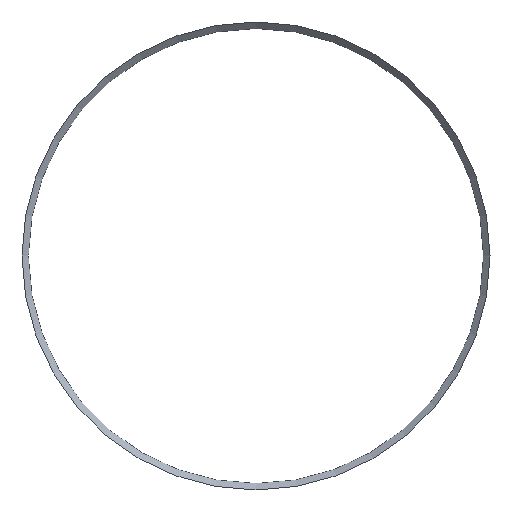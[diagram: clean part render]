
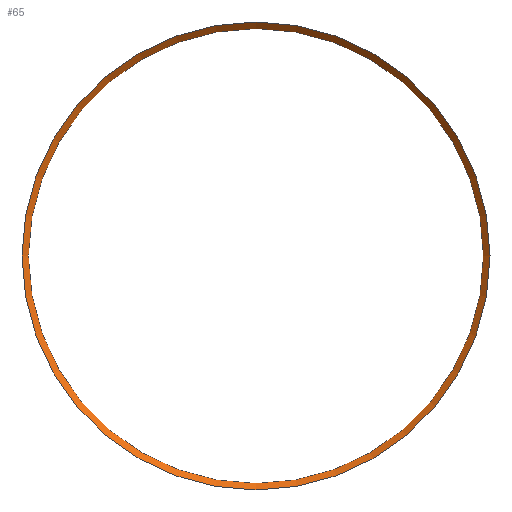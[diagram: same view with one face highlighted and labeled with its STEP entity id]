
A CAD part, top view. The second image highlights one B-rep face of the part: STEP entity #65.
In plain terms, the highlighted conical face has half-angle 45 degrees and reference radius 18.75 mm.
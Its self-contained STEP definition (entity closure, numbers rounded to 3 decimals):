
#1=CARTESIAN_POINT('',(0.,0.,0.));
#2=CARTESIAN_POINT('',(0.,0.,-0.25));
#3=CARTESIAN_POINT('',(0.,0.,0.221));
#4=CARTESIAN_POINT('',(19.,0.,-0.25));
#5=CARTESIAN_POINT('',(18.485,0.,0.235));
#10=DIRECTION('',(0.,0.,-1.));
#11=DIRECTION('',(-1.,0.,0.));
#12=DIRECTION('',(0.,0.,1.));
#13=DIRECTION('',(1.,0.,0.));
#14=AXIS2_PLACEMENT_3D('',#1,#10,#11);
#15=AXIS2_PLACEMENT_3D('',#2,#12,#13);
#16=AXIS2_PLACEMENT_3D('',#3,#12,#13);
#20=VERTEX_POINT('',#4);
#21=VERTEX_POINT('',#5);
#30=CIRCLE('',#15,19.);
#31=CIRCLE('',#16,18.471);
#40=EDGE_CURVE('',#20,#20,#30,.T.);
#41=EDGE_CURVE('',#21,#21,#31,.T.);
#50=ORIENTED_EDGE('',*,*,#40,.F.);
#51=ORIENTED_EDGE('',*,*,#41,.T.);
#60=EDGE_LOOP('',(#50));
#61=EDGE_LOOP('',(#51));
#62=FACE_OUTER_BOUND('',#60,.T.);
#63=FACE_BOUND('',#61,.T.);
#64=CONICAL_SURFACE('',#14,18.75,0.785);
#65=ADVANCED_FACE('',(#62,#63),#64,.F.);
